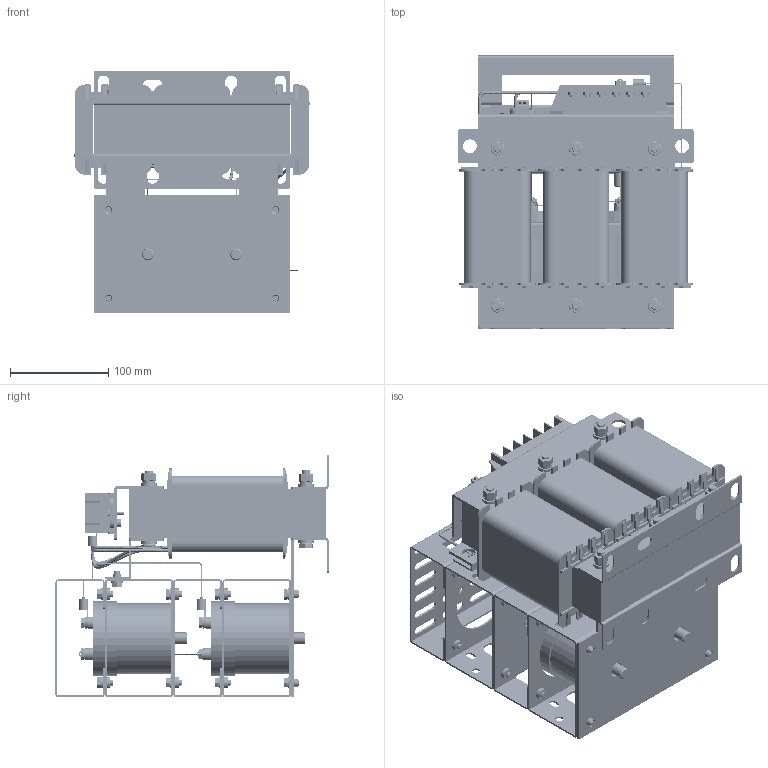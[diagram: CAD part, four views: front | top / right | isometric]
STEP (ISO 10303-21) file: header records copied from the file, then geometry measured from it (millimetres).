
FILE_DESCRIPTION(('STEP AP203'), '1');
FILE_NAME('蔓躅漤铋 耔眢耥 翳朦蝠 _ ISINOF-7.5_10-6', '', ('UNSPECIFIED'), ('UNSPECIFIED'), 'C3D Converter', 'C3D Toolkit', '');
FILE_SCHEMA(('CONFIG_CONTROL_DESIGN'));
Length unit declared in the file: millimetre
Products named in the file (54): ISINOF-7.5/10-6; RNB14-6S; 吒X2\0425\X0\72-80; ёЗЧУ; №ЗјЬG40ЎБ50ЎБ120; ї琵X2\041E\X0\做зЧУKV223-2P; БщЅЗВЭЛЁM8; ИэПаМъРѕ200-200-48; ЙПјРјю НЁУГ40-80; ЙПјРјю40-80\X2\040Ô0448\X0\¶ЛЧУЦ§іЕ; ПВјРјю40-80НЁУГ; ПЯИ¦10A; LРНЦ吭X2\04560415\X0\1; plain washers--product grade c gb_GB_FASTENER_WASHER_SMWC 8; spring lock washers--normal type gb_GB_FASTENER_WASHER_SW 8; hexagon nuts grade c gb_GB_FASTENER_NUT_SNC1 M8-N; 琵X2\04370418042D0426\X0\吭X2\04560415\X0\; 琵X2\04370418042D0458042C\X0\2 ; plain washers--product grade c gb_GB_FASTENER_WASHER_SMWC 6; hexagon head bolts-full thread gb_GB_FASTENER_BOLT_STBAB A M6X12-N; А降еМх40-200-1; 琵X2\04370418042D0426\X0\吭X2\0458042C\X0\; DW8-06-02; 琵X2\0428\X0\崤X2\043A\X0\; Cable_1-ХэПТІЁВЛІЁ琵X2\04370457211604160447\X0\SKS-SF-0010-6AЈЇ05; 琵X2\043704100412\X0\^Cable_1-ХэПТІЁВЛІЁ琵X2\04370457211604160447\X0\SKS-SF-0010-6AЈЇ05; Cable_2-ХэПТІЁВЛІЁ琵X2\04370457211604160447\X0\SKS-SF-0010-6AЈЇ05; 琵X2\043704100412\X0\^Cable_2-ХэПТІЁВЛІЁ琵X2\04370457211604160447\X0\SKS-SF-0010-6AЈЇ05; Cable_4-ХэПТІЁВЛІЁ琵X2\04370457211604160447\X0\SKS-SF-0010-6AЈЇ05; 琵X2\043704100412\X0\^Cable_4-ХэПТІЁВЛІЁ琵X2\04370457211604160447\X0\SKS-SF-0010-6AЈЇ05; Cable_5-ХэПТІЁВЛІЁ琵X2\04370457211604160447\X0\SKS-SF-0010-6AЈЇ05; 琵X2\043704100412\X0\^Cable_5-ХэПТІЁВЛІЁ琵X2\04370457211604160447\X0\SKS-SF-0010-6AЈЇ05; Cable_10-ХэПТІЁВЛІЁ琵X2\04370457211604160447\X0\SKS-SF-0010-6AЈЇ05; 琵X2\043704100412\X0\^Cable_10-ХэПТІЁВЛІЁ琵X2\04370457211604160447\X0\SKS-SF-0010-6AЈЇ05; Cable_11-ХэПТІЁВЛІЁ琵X2\04370457211604160447\X0\SKS-SF-0010-6AЈЇ05; 琵X2\043704100412\X0\^Cable_11-ХэПТІЁВЛІЁ琵X2\04370457211604160447\X0\SKS-SF-0010-6AЈЇ05; Cable_12-ХэПТІЁВЛІЁ琵X2\04370457211604160447\X0\SKS-SF-0010-6AЈЇ05-001; 琵X2\043704100412\X0\^Cable_12-ХэПТІЁВЛІЁ琵X2\04370457211604160447\X0\SKS-SF-0010-6AЈЇ05-001; Cable_13-ХэПТІЁВЛІЁ琵X2\04370457211604160447\X0\SKS-SF-0010-6AЈЇ05; 琵X2\043704100412\X0\^Cable_13-ХэПТІЁВЛІЁ琵X2\04370457211604160447\X0\SKS-SF-0010-6AЈЇ05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
Assembly tree (162 placements, depth 3):
  ISINOF-7.5/10-6
    RNB14-6S  x12
    吒X2\0425\X0\72-80  x3
    ёЗЧУ
    №ЗјЬG40ЎБ50ЎБ120  x3
    ї琵X2\041E\X0\做зЧУKV223-2P
    БщЅЗВЭЛЁM8  x6
    ИэПаМъРѕ200-200-48
    ЙПјРјю НЁУГ40-80
    ЙПјРјю40-80\X2\040Ô0448\X0\¶ЛЧУЦ§іЕ
    ПВјРјю40-80НЁУГ  x2
    ПЯИ¦10A  x3
    LРНЦ吭X2\04560415\X0\1  x2
    plain washers--product grade c gb_GB_FASTENER_WASHER_SMWC 8  x24
    spring lock washers--normal type gb_GB_FASTENER_WASHER_SW 8  x6
    hexagon nuts grade c gb_GB_FASTENER_NUT_SNC1 M8-N  x6
    琵X2\04370418042D0426\X0\吭X2\04560415\X0\  x2
    琵X2\04370418042D0458042C\X0\2   x2
    plain washers--product grade c gb_GB_FASTENER_WASHER_SMWC 6  x24
    hexagon head bolts-full thread gb_GB_FASTENER_BOLT_STBAB A M6X12-N  x12
    А降еМх40-200-1  x6
    琵X2\04370418042D0426\X0\吭X2\0458042C\X0\
    DW8-06-02
    琵X2\0428\X0\崤X2\043A\X0\
    Cable_1-ХэПТІЁВЛІЁ琵X2\04370457211604160447\X0\SKS-SF-0010-6AЈЇ05
      琵X2\043704100412\X0\^Cable_1-ХэПТІЁВЛІЁ琵X2\04370457211604160447\X0\SKS-SF-0010-6AЈЇ05
    Cable_2-ХэПТІЁВЛІЁ琵X2\04370457211604160447\X0\SKS-SF-0010-6AЈЇ05
      琵X2\043704100412\X0\^Cable_2-ХэПТІЁВЛІЁ琵X2\04370457211604160447\X0\SKS-SF-0010-6AЈЇ05
    Cable_4-ХэПТІЁВЛІЁ琵X2\04370457211604160447\X0\SKS-SF-0010-6AЈЇ05
      琵X2\043704100412\X0\^Cable_4-ХэПТІЁВЛІЁ琵X2\04370457211604160447\X0\SKS-SF-0010-6AЈЇ05
    Cable_5-ХэПТІЁВЛІЁ琵X2\04370457211604160447\X0\SKS-SF-0010-6AЈЇ05
      琵X2\043704100412\X0\^Cable_5-ХэПТІЁВЛІЁ琵X2\04370457211604160447\X0\SKS-SF-0010-6AЈЇ05
    Cable_10-ХэПТІЁВЛІЁ琵X2\04370457211604160447\X0\SKS-SF-0010-6AЈЇ05
      琵X2\043704100412\X0\^Cable_10-ХэПТІЁВЛІЁ琵X2\04370457211604160447\X0\SKS-SF-0010-6AЈЇ05
    Cable_11-ХэПТІЁВЛІЁ琵X2\04370457211604160447\X0\SKS-SF-0010-6AЈЇ05
      琵X2\043704100412\X0\^Cable_11-ХэПТІЁВЛІЁ琵X2\04370457211604160447\X0\SKS-SF-0010-6AЈЇ05
    Cable_12-ХэПТІЁВЛІЁ琵X2\04370457211604160447\X0\SKS-SF-0010-6AЈЇ05-001
      琵X2\043704100412\X0\^Cable_12-ХэПТІЁВЛІЁ琵X2\04370457211604160447\X0\SKS-SF-0010-6AЈЇ05-001
    Cable_13-ХэПТІЁВЛІЁ琵X2\04370457211604160447\X0\SKS-SF-0010-6AЈЇ05
      琵X2\043704100412\X0\^Cable_13-ХэПТІЁВЛІЁ琵X2\04370457211604160447\X0\SKS-SF-0010-6AЈЇ05
    hex head bolts-full thread grade c gb_GB_FASTENER_BOLT_HHBFTC M6X12-N  x12
    Cable_14-ХэПТІЁВЛІЁ琵X2\04370457211604160447\X0\SKS-SF-0010-6AЈЇ05
      琵X2\043704100412\X0\^Cable_14-ХэПТІЁВЛІЁ琵X2\04370457211604160447\X0\SKS-SF-0010-6AЈЇ05
    Cable_15-ХэПТІЁВЛІЁ琵X2\04370457211604160447\X0\SKS-SF-0010-6AЈЇ05
      琵X2\043704100412\X0\^Cable_15-ХэПТІЁВЛІЁ琵X2\04370457211604160447\X0\SKS-SF-0010-6AЈЇ05
    Cable_16-ХэПТІЁВЛІЁ琵X2\04370457211604160447\X0\SKS-SF-0010-6AЈЇ05
      琵X2\043704100412\X0\^Cable_16-ХэПТІЁВЛІЁ琵X2\04370457211604160447\X0\SKS-SF-0010-6AЈЇ05
    Cable_17-ХэПТІЁВЛІЁ琵X2\04370457211604160447\X0\SKS-SF-0010-6AЈЇ05
      琵X2\043704100412\X0\^Cable_17-ХэПТІЁВЛІЁ琵X2\04370457211604160447\X0\SKS-SF-0010-6AЈЇ05
    Cable_18-ХэПТІЁВЛІЁ琵X2\04370457211604160447\X0\SKS-SF-0010-6AЈЇ05
      琵X2\043704100412\X0\^Cable_18-ХэПТІЁВЛІЁ琵X2\04370457211604160447\X0\SKS-SF-0010-6AЈЇ05
    Cable_19-ХэПТІЁВЛІЁ琵X2\04370457211604160447\X0\SKS-SF-0010-6AЈЇ05
      琵X2\043704100412\X0\^Cable_19-ХэПТІЁВЛІЁ琵X2\04370457211604160447\X0\SKS-SF-0010-6AЈЇ05
    DW8-06-02+МщЦЅ
Bounding box: 240 x 278 x 247 mm (x, y, z)
Volume: 4290311.7 mm3; surface area: 1376475.6 mm2
Topology: 200 solids, 200 shells, 3726 faces, 8955 edges, 5780 vertices
Faces by surface type: plane 2533, cylinder 839, cone 301, bspline 46, torus 7
Full cylindrical faces by diameter (mm): 3 x25, 3.8 x2, 4 x4, 5 x12, 6 x50, 6.2 x12, 6.4 x12, 6.6 x24, 6.647 x6, 6.7 x12, 8 x21, 8.68 x6, 9 x24, 11 x30, 12 x39, 12.5 x6, 12.88 x6, 13.65 x1, 14 x2, 14.25 x1, 15 x1, 16 x30, 72 x6, 76 x3, 80 x4
Entity records: 98988 total; most frequent: CARTESIAN_POINT 31331, DIRECTION 9405, ORIENTED_EDGE 9334, EDGE_CURVE 4667, LINE 3463, VECTOR 3463, VERTEX_POINT 3116, AXIS2_PLACEMENT_3D 2971
